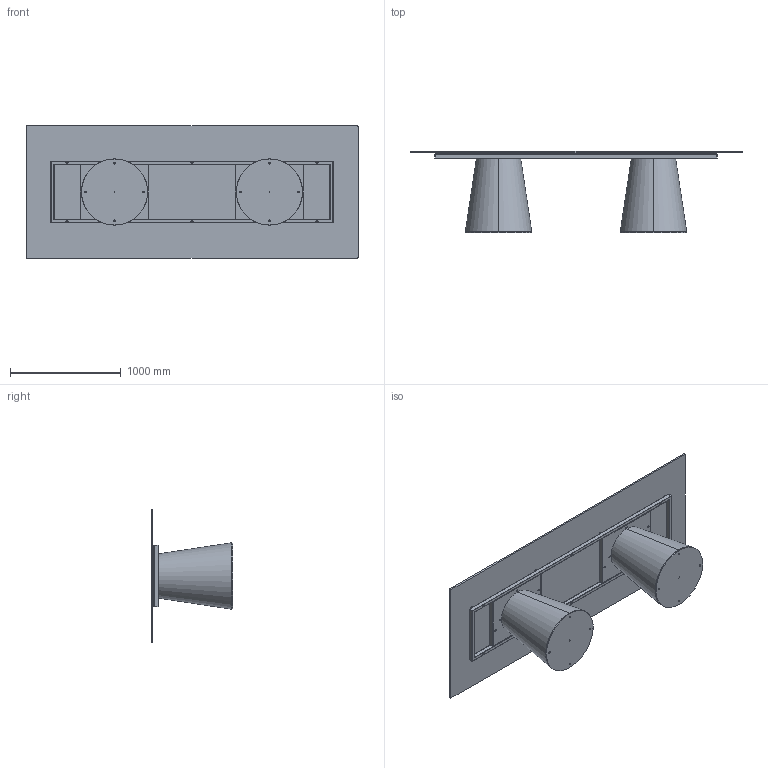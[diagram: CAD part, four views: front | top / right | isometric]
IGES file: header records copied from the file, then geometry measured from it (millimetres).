
Start section: SolidWorks IGES file using analytic representation for surfaces
Global section: file name: Y:\eforma\TECNICO\SOLIDWORKS\E-FORMA\1-TAVOLI\TEO\08 modelli 3D web\TO24G_Teo_300x120_Glass Rectangular.IGS; native system: SolidWorks 2022; preprocessor: SolidWorks 2022; author: eforma.tech; date: 240802.113448; units: millimetre
Bounding box: 3000 x 738.19 x 1200 mm (x, y, z)
Volume: 114561888.6 mm3; surface area: 16965721 mm2
Topology: 32 solids, 32 shells, 862 faces, 1952 edges, 1144 vertices
Faces by surface type: revolution 436, plane 426
